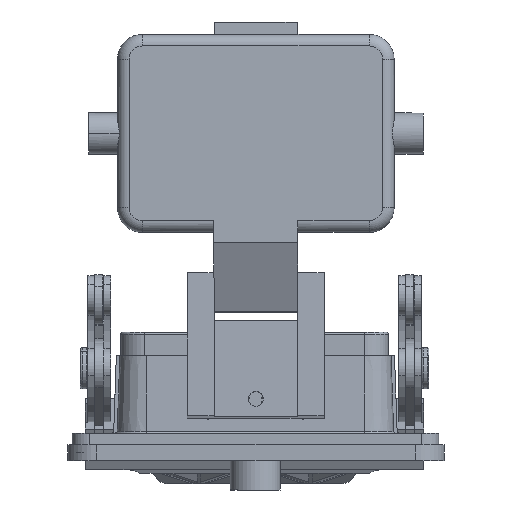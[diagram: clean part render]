
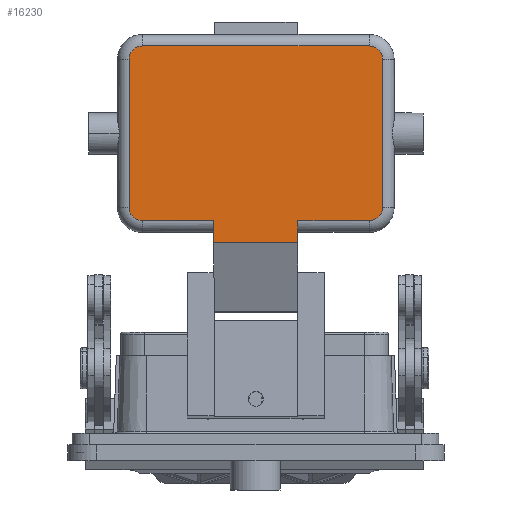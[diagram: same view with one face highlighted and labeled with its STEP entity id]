
A CAD part, front view. The second image highlights one B-rep face of the part: STEP entity #16230.
In plain terms, the highlighted planar face has unit normal (0, -1, 0.008).
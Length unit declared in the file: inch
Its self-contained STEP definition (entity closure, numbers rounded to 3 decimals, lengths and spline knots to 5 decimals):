
#15368 = VERTEX_POINT ( 'NONE', #30099 ) ;
#15370 = EDGE_CURVE ( 'NONE', #15438, #15368, #30076, .T. ) ;
#15376 = EDGE_CURVE ( 'NONE', #15826, #15831, #30026, .T. ) ;
#15438 = VERTEX_POINT ( 'NONE', #30315 ) ;
#15826 = VERTEX_POINT ( 'NONE', #32052 ) ;
#15831 = VERTEX_POINT ( 'NONE', #32083 ) ;
#15833 = VERTEX_POINT ( 'NONE', #32082 ) ;
#15835 = EDGE_CURVE ( 'NONE', #15869, #15833, #32081, .T. ) ;
#15869 = VERTEX_POINT ( 'NONE', #32274 ) ;
#15929 = VERTEX_POINT ( 'NONE', #32130 ) ;
#15933 = EDGE_CURVE ( 'NONE', #15981, #15929, #32128, .T. ) ;
#15948 = VERTEX_POINT ( 'NONE', #32184 ) ;
#15970 = EDGE_CURVE ( 'NONE', #15368, #15981, #32166, .T. ) ;
#15981 = VERTEX_POINT ( 'NONE', #32506 ) ;
#16040 = EDGE_CURVE ( 'NONE', #15826, #16050, #32660, .T. ) ;
#16050 = VERTEX_POINT ( 'NONE', #32716 ) ;
#16207 = ORIENTED_EDGE ( 'NONE', *, *, #16208, .T. ) ;
#16208 = EDGE_CURVE ( 'NONE', #15831, #15438, #32948, .T. ) ;
#16209 = ORIENTED_EDGE ( 'NONE', *, *, #15370, .T. ) ;
#16210 = ORIENTED_EDGE ( 'NONE', *, *, #15970, .T. ) ;
#16212 = ORIENTED_EDGE ( 'NONE', *, *, #15933, .T. ) ;
#16215 = ORIENTED_EDGE ( 'NONE', *, *, #16448, .T. ) ;
#16216 = ORIENTED_EDGE ( 'NONE', *, *, #16270, .T. ) ;
#16217 = ORIENTED_EDGE ( 'NONE', *, *, #16255, .T. ) ;
#16218 = ORIENTED_EDGE ( 'NONE', *, *, #15835, .T. ) ;
#16230 = ADVANCED_FACE ( 'NONE', ( #33018 ), #33073, .F. ) ;
#16232 = EDGE_LOOP ( 'NONE', ( #16233, #16234, #16235, #16236, #16207, #16209, #16210, #16212, #16215, #16216, #16217, #16218 ) ) ;
#16233 = ORIENTED_EDGE ( 'NONE', *, *, #16308, .F. ) ;
#16234 = ORIENTED_EDGE ( 'NONE', *, *, #16344, .T. ) ;
#16235 = ORIENTED_EDGE ( 'NONE', *, *, #16040, .F. ) ;
#16236 = ORIENTED_EDGE ( 'NONE', *, *, #15376, .T. ) ;
#16255 = EDGE_CURVE ( 'NONE', #16268, #15869, #33306, .T. ) ;
#16268 = VERTEX_POINT ( 'NONE', #33258 ) ;
#16270 = EDGE_CURVE ( 'NONE', #15948, #16268, #33256, .T. ) ;
#16308 = EDGE_CURVE ( 'NONE', #16339, #15833, #33870, .T. ) ;
#16339 = VERTEX_POINT ( 'NONE', #33630 ) ;
#16344 = EDGE_CURVE ( 'NONE', #16339, #16050, #33625, .T. ) ;
#16448 = EDGE_CURVE ( 'NONE', #15929, #15948, #34214, .T. ) ;
#30026 = LINE ( 'NONE', #30115, #30053 ) ;
#30051 = DIRECTION ( 'NONE',  ( 1., 0., 0. ) ) ;
#30053 = VECTOR ( 'NONE', #30051, 39.37008 ) ;
#30076 = LINE ( 'NONE', #30126, #30125 ) ;
#30099 = CARTESIAN_POINT ( 'NONE',  ( 1.09413, -1.81116, 3.40705 ) ) ;
#30115 = CARTESIAN_POINT ( 'NONE',  ( 0.97951, -1.82211, 2.01248 ) ) ;
#30124 = DIRECTION ( 'NONE',  ( 0., 0.008, 1. ) ) ;
#30125 = VECTOR ( 'NONE', #30124, 39.37008 ) ;
#30126 = CARTESIAN_POINT ( 'NONE',  ( 1.09413, -1.81116, 3.40705 ) ) ;
#30315 = CARTESIAN_POINT ( 'NONE',  ( 1.09413, -1.82121, 2.12709 ) ) ;
#31901 = DIRECTION ( 'NONE',  ( 1., 0., 0. ) ) ;
#31902 = VECTOR ( 'NONE', #31901, 39.37008 ) ;
#31903 = CARTESIAN_POINT ( 'NONE',  ( -0.36337, -1.82211, 2.01248 ) ) ;
#32052 = CARTESIAN_POINT ( 'NONE',  ( 0.36339, -1.82211, 2.01248 ) ) ;
#32081 = LINE ( 'NONE', #31903, #31902 ) ;
#32082 = CARTESIAN_POINT ( 'NONE',  ( -0.36337, -1.82211, 2.01248 ) ) ;
#32083 = CARTESIAN_POINT ( 'NONE',  ( 0.97951, -1.82211, 2.01248 ) ) ;
#32127 = CARTESIAN_POINT ( 'NONE',  ( 0.05973, -1.81026, 3.52167 ) ) ;
#32128 = LINE ( 'NONE', #32127, #32355 ) ;
#32130 = CARTESIAN_POINT ( 'NONE',  ( -0.97949, -1.81026, 3.52167 ) ) ;
#32162 = DIRECTION ( 'NONE',  ( -1., 0., 0. ) ) ;
#32163 = DIRECTION ( 'NONE',  ( 0., -1., 0.008 ) ) ;
#32164 = CARTESIAN_POINT ( 'NONE',  ( 0.97951, -1.81116, 3.40705 ) ) ;
#32165 = AXIS2_PLACEMENT_3D ( 'NONE', #32164, #32163, #32162 ) ;
#32166 = CIRCLE ( 'NONE', #32165, 0.11462 ) ;
#32184 = CARTESIAN_POINT ( 'NONE',  ( -1.09411, -1.81116, 3.40705 ) ) ;
#32274 = CARTESIAN_POINT ( 'NONE',  ( -0.97949, -1.82211, 2.01248 ) ) ;
#32354 = DIRECTION ( 'NONE',  ( -1., 0., 0. ) ) ;
#32355 = VECTOR ( 'NONE', #32354, 39.37008 ) ;
#32506 = CARTESIAN_POINT ( 'NONE',  ( 0.97951, -1.81026, 3.52167 ) ) ;
#32657 = DIRECTION ( 'NONE',  ( 0., -0.008, -1. ) ) ;
#32658 = VECTOR ( 'NONE', #32657, 39.37008 ) ;
#32659 = CARTESIAN_POINT ( 'NONE',  ( 0.36339, -1.83949, -0.19956 ) ) ;
#32660 = LINE ( 'NONE', #32659, #32658 ) ;
#32716 = CARTESIAN_POINT ( 'NONE',  ( 0.36339, -1.8236, 1.8228 ) ) ;
#32944 = DIRECTION ( 'NONE',  ( -1., 0., 0. ) ) ;
#32945 = DIRECTION ( 'NONE',  ( 0., -1., 0.008 ) ) ;
#32946 = CARTESIAN_POINT ( 'NONE',  ( 0.97951, -1.82121, 2.12709 ) ) ;
#32947 = AXIS2_PLACEMENT_3D ( 'NONE', #32946, #32945, #32944 ) ;
#32948 = CIRCLE ( 'NONE', #32947, 0.11462 ) ;
#33018 = FACE_OUTER_BOUND ( 'NONE', #16232, .T. ) ;
#33067 = DIRECTION ( 'NONE',  ( -1., 0., 0. ) ) ;
#33069 = DIRECTION ( 'NONE',  ( 0., 1., -0.008 ) ) ;
#33070 = CARTESIAN_POINT ( 'NONE',  ( 0.05973, -1.83949, -0.19956 ) ) ;
#33071 = AXIS2_PLACEMENT_3D ( 'NONE', #33070, #33069, #33067 ) ;
#33073 = PLANE ( 'NONE',  #33071 ) ;
#33254 = VECTOR ( 'NONE', #33294, 39.37008 ) ;
#33255 = CARTESIAN_POINT ( 'NONE',  ( -1.09411, -1.83949, -0.19956 ) ) ;
#33256 = LINE ( 'NONE', #33255, #33254 ) ;
#33258 = CARTESIAN_POINT ( 'NONE',  ( -1.09411, -1.82121, 2.12709 ) ) ;
#33294 = DIRECTION ( 'NONE',  ( 0., -0.008, -1. ) ) ;
#33302 = DIRECTION ( 'NONE',  ( -1., 0., 0. ) ) ;
#33303 = DIRECTION ( 'NONE',  ( 0., -1., 0.008 ) ) ;
#33304 = CARTESIAN_POINT ( 'NONE',  ( -0.97949, -1.82121, 2.12709 ) ) ;
#33305 = AXIS2_PLACEMENT_3D ( 'NONE', #33304, #33303, #33302 ) ;
#33306 = CIRCLE ( 'NONE', #33305, 0.11462 ) ;
#33621 = DIRECTION ( 'NONE',  ( 1., 0., 0. ) ) ;
#33623 = VECTOR ( 'NONE', #33621, 39.37008 ) ;
#33624 = CARTESIAN_POINT ( 'NONE',  ( 0.05973, -1.8236, 1.8228 ) ) ;
#33625 = LINE ( 'NONE', #33624, #33623 ) ;
#33630 = CARTESIAN_POINT ( 'NONE',  ( -0.36337, -1.8236, 1.8228 ) ) ;
#33867 = DIRECTION ( 'NONE',  ( 0., 0.008, 1. ) ) ;
#33868 = VECTOR ( 'NONE', #33867, 39.37008 ) ;
#33869 = CARTESIAN_POINT ( 'NONE',  ( -0.36337, -1.83949, -0.19956 ) ) ;
#33870 = LINE ( 'NONE', #33869, #33868 ) ;
#34210 = DIRECTION ( 'NONE',  ( -1., 0., 0. ) ) ;
#34211 = DIRECTION ( 'NONE',  ( 0., -1., 0.008 ) ) ;
#34212 = CARTESIAN_POINT ( 'NONE',  ( -0.97949, -1.81116, 3.40705 ) ) ;
#34213 = AXIS2_PLACEMENT_3D ( 'NONE', #34212, #34211, #34210 ) ;
#34214 = CIRCLE ( 'NONE', #34213, 0.11462 ) ;
